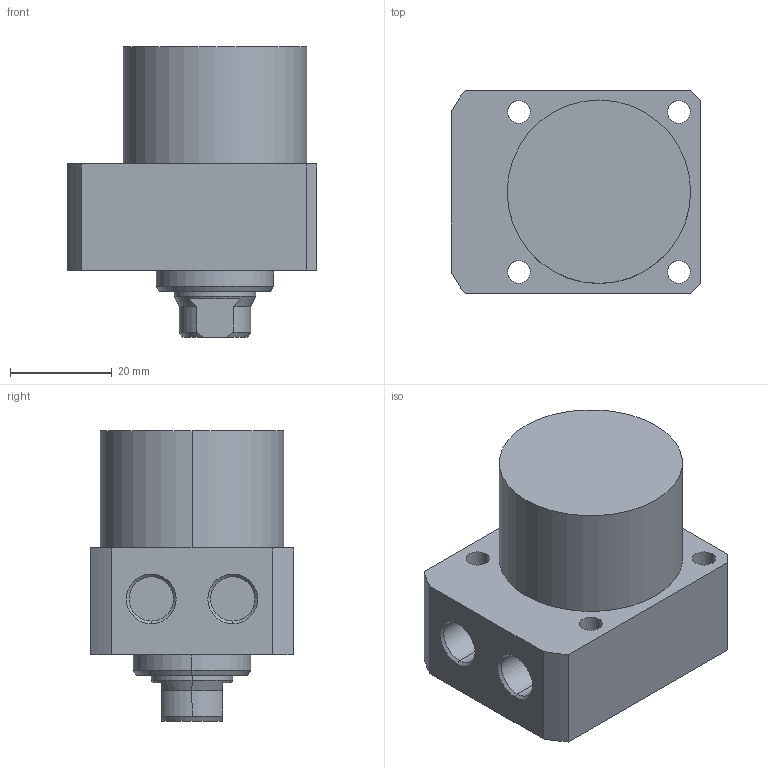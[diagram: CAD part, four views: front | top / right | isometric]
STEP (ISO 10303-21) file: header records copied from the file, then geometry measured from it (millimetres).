
FILE_DESCRIPTION (( 'STEP AP203' ), '1' );
FILE_NAME ('CLLR-036CA-(1-14).STEP', '2019-12-20T00:27:44', ( '' ), ( '' ), 'SwSTEP 2.0', 'SolidWorks 2015', '' );
FILE_SCHEMA (( 'CONFIG_CONTROL_DESIGN' ));
Length unit declared in the file: millimetre
Products named in the file (1): CLLR-036CA-(1-14)
Bounding box: 49 x 40 x 57 mm (x, y, z)
Volume: 64114.8 mm3; surface area: 12681 mm2
Topology: 1 solids, 1 shells, 63 faces, 149 edges, 94 vertices
Faces by surface type: cylinder 29, plane 19, cone 15
Entity records: 1927 total; most frequent: DIRECTION 340, CARTESIAN_POINT 337, ORIENTED_EDGE 294, EDGE_CURVE 147, AXIS2_PLACEMENT_3D 137, VERTEX_POINT 94, EDGE_LOOP 79, CIRCLE 73
